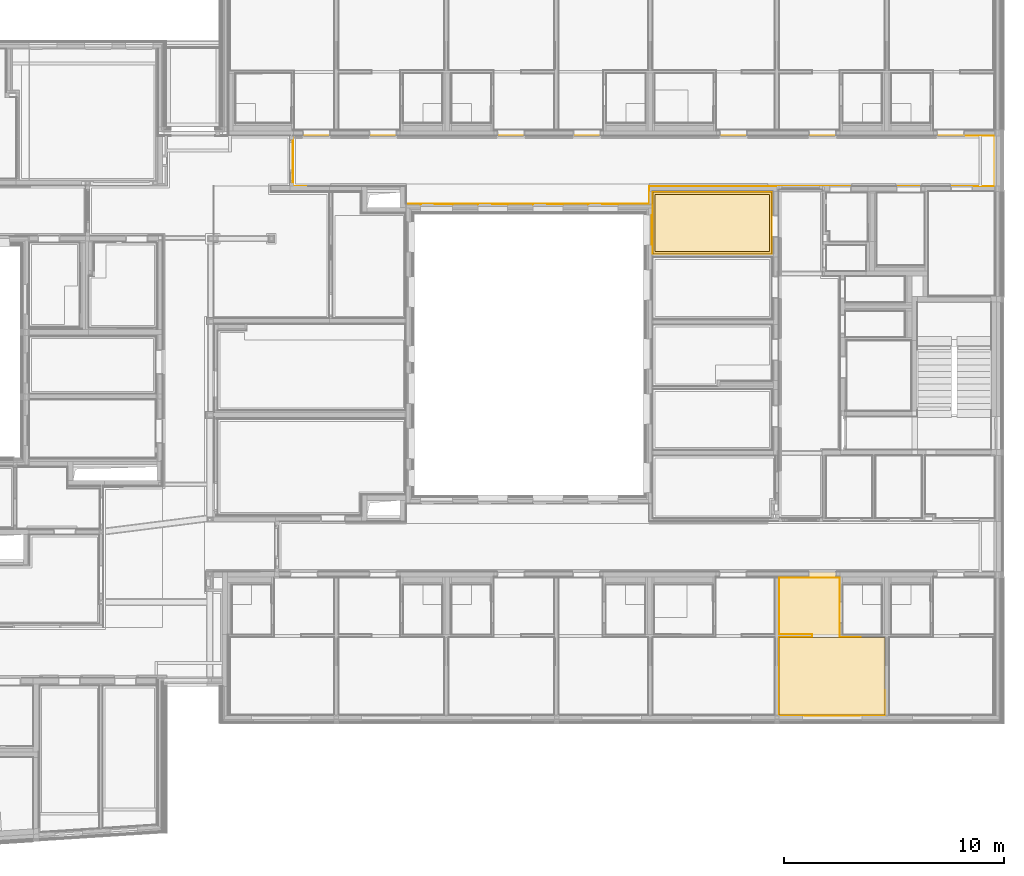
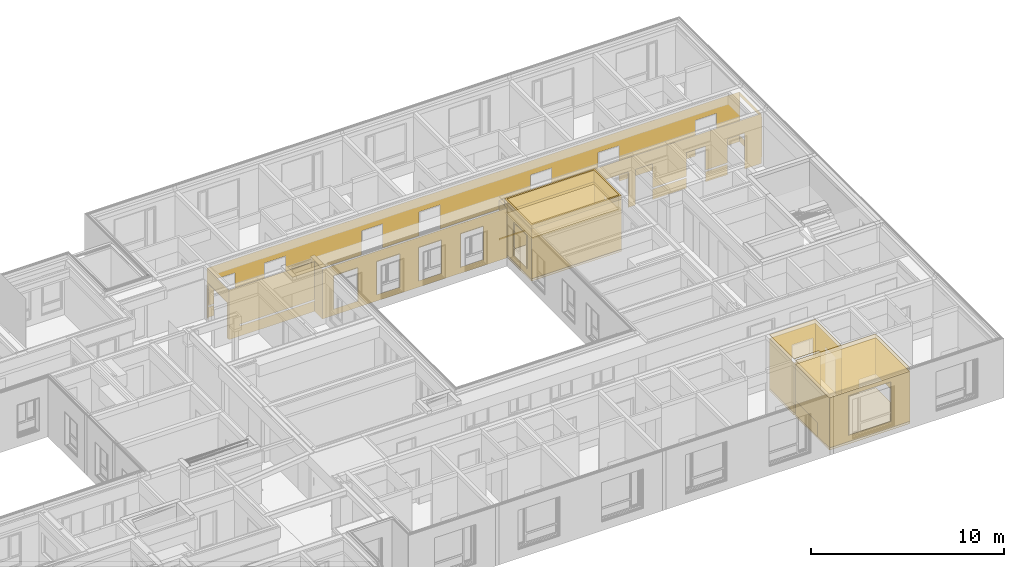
# One storey, part 193 of 222: 20 coverings.
"""IFC4 building model written with IfcOpenShell, lengths in metres."""

from ifc_helpers import new_model, entity, si_unit, converted_unit, derived_unit, frame, frame_2d, origin, origin_with_axes, place, context, subcontext, project, spatial, polyline, rectangle, outline, extrude, material, layer, layer_set, layer_usage, element, save


model = new_model("IFC4")

# Units and contexts
model_context = context("Model", 3, precision=1e-05, world=origin())
body_context = subcontext(model_context, "Body", "Model", "MODEL_VIEW")
ifc_project = project(units=[si_unit("LENGTHUNIT", "METRE"), si_unit("AREAUNIT", "SQUARE_METRE"), si_unit("VOLUMEUNIT", "CUBIC_METRE"), si_unit("MASSUNIT", "GRAM", prefix="KILO"), converted_unit("PLANEANGLEUNIT", "DEGREE", entity("IfcPlaneAngleMeasure", 0.0174532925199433), si_unit("PLANEANGLEUNIT", "RADIAN"), dimensions=[0, 0, 0, 0, 0, 0, 0]), derived_unit("THERMALTRANSMITTANCEUNIT", [(si_unit("POWERUNIT", "WATT"), 1), (si_unit("THERMODYNAMICTEMPERATUREUNIT", "KELVIN"), -1), (si_unit("LENGTHUNIT", "METRE"), -2)]), derived_unit("VOLUMETRICFLOWRATEUNIT", [(si_unit("LENGTHUNIT", "METRE"), 3), (converted_unit("TIMEUNIT", "hour", entity("IfcTimeMeasure", 3600.0), si_unit("TIMEUNIT", "SECOND"), dimensions=[0, 0, 1, 0, 0, 0, 0]), -1), (si_unit("LENGTHUNIT", "METRE"), -1)])], contexts=[model_context])

# Site, building, storey, space
site_placement = place(None, origin())
site = spatial("IfcSite", under=ifc_project, at=site_placement, Name="Psychiatrie Neubau Wunstorf", CompositionType="ELEMENT")
building_placement = place(site_placement, origin())
building = spatial("IfcBuilding", under=site, at=building_placement, Name="Neubau H2 Stationsgebäude", CompositionType="ELEMENT")
storey_placement = place(building_placement, frame((0.0, 0.0, 3.6)))
storey = spatial("IfcBuildingStorey", under=building, at=storey_placement, Name="H2 Ebene +1", CompositionType="ELEMENT", Elevation=3.6)
space_1_placement = place(storey_placement, frame((74.055, 22.036, 0.0)))
space_1 = spatial("IfcSpace", under=storey, at=space_1_placement, Name="WUN-H2-E01-073", CompositionType="ELEMENT")

# Coverings
ifc_material_1 = material(Name="97")
ifc_layer_1 = layer(ifc_material_1, 0.001)
ifc_layer_set_1 = layer_set([ifc_layer_1])
ifc_layer_usage_1 = layer_usage(ifc_layer_set_1, "AXIS3", "POSITIVE", 0.0)
covering_1_placement = place(space_1_placement, frame((16.156, 0.799999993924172, 0.8)))
element("IfcCovering", 1, at=covering_1_placement, inside=space_1, material=ifc_layer_usage_1, Name="Handlauf", PredefinedType="CLADDING", context=body_context, shape_type="SweptSolid", body=[
    extrude(rectangle(XDim=5.37899999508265, YDim=0.1, at=frame_2d((2.68949999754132, -0.05), x_axis=(1.0, 0.0))), frame((0.0, 0.0, 0.0), z_axis=(0.0, 1.0, 0.0), x_axis=(1.0, 0.0, 0.0)), (0.0, 0.0, 1.0), 0.001),
])
ifc_material_2 = material(Name="49")
ifc_layer_2 = layer(ifc_material_2, 0.001)
ifc_layer_set_2 = layer_set([ifc_layer_2])
ifc_layer_usage_2 = layer_usage(ifc_layer_set_2, "AXIS3", "POSITIVE", 0.0)
covering_2_placement = place(space_1_placement, frame((-0.035, -0.05, 0.15)))
element("IfcCovering", 2, at=covering_2_placement, inside=space_1, material=ifc_layer_usage_2, PredefinedType="CLADDING", context=body_context, shape_type="SweptSolid", body=[
    extrude(outline(polyline([(0.0, 3.15), (0.154999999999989, 3.15), (0.154999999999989, 0.89), (2.12649999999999, 0.89), (2.12649999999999, 3.15), (2.28149999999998, 3.15), (2.28149999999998, 0.0), (0.0, 0.0), (0.0, 3.15)])), frame((0.035, 3.13150000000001, 3.15), z_axis=(1.0, 0.0, 0.0), x_axis=(0.0, -1.0, 0.0)), (0.0, 0.0, 1.0), 0.001),
    extrude(outline(polyline([(0.0, 3.15), (5.12499963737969, 3.15), (5.12499963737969, 2.5), (0.66, 2.5), (0.66, 2.4), (5.12499963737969, 2.4), (5.12499963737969, 0.0), (0.0, 0.0), (0.0, 3.15)])), frame((0.035, 0.850000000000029, 3.15), z_axis=(-1.07143262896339e-15, 1.0, -4.5075620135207e-15), x_axis=(1.0, 1.07143262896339e-15, 0.0)), (0.0, 0.0, 1.0), 0.001),
    extrude(rectangle(XDim=0.800000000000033, YDim=3.15, at=frame_2d((0.400000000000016, -1.575), x_axis=(1.0, 0.0))), frame((5.15999963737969, 0.850000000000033, 0.0), z_axis=(1.0, 0.0, 0.0), x_axis=(0.0, -1.0, 0.0)), (0.0, 0.0, 1.0), 0.001),
    extrude(outline(polyline([(0.0, 3.15), (11.0310003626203, 3.15), (11.0310003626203, 0.0), (0.0, 0.0), (0.0, 3.15)]), holes=[polyline([(4.59970036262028, 2.75), (3.24970036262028, 2.75), (3.24970036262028, 0.635), (4.59970036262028, 0.635), (4.59970036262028, 2.75)]), polyline([(7.09970066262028, 2.75), (5.74970036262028, 2.75), (5.74970036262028, 0.635), (7.09970066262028, 0.635), (7.09970066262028, 2.75)]), polyline([(9.59970096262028, 2.75), (8.24970066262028, 2.75), (8.24970066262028, 0.635), (9.59970096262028, 0.635), (9.59970096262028, 2.75)]), polyline([(2.09970036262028, 2.75), (0.649700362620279, 2.75), (0.649700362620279, 0.635), (2.09970036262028, 0.635), (2.09970036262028, 2.75)])]), frame((5.15999963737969, 0.0499999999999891, 3.15), z_axis=(0.0, 1.0, 0.0), x_axis=(1.0, 0.0, 0.0)), (0.0, 0.0, 1.0), 0.001),
    extrude(rectangle(XDim=0.799999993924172, YDim=3.15, at=frame_2d((0.399999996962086, -1.575), x_axis=(1.0, 0.0))), frame((16.191, 0.05, 0.0), z_axis=(-1.0, 0.0, 0.0), x_axis=(0.0, 1.0, 0.0)), (0.0, 0.0, 1.0), 0.001),
    extrude(outline(polyline([(0.0, 3.15), (6.02649991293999, 3.15), (6.02649991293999, 0.89), (7.70899991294, 0.89), (7.70899991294, 3.15), (8.16400622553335, 3.15), (8.16400622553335, 0.89), (9.17400622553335, 0.89), (9.17400622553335, 2.4), (11.2039935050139, 2.4), (11.2039935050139, 0.89), (12.3389935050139, 0.89), (12.3389935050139, 2.4), (13.6615453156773, 2.4), (13.6615453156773, 0.89), (14.6715453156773, 0.89), (14.6715453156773, 3.15), (15.678, 3.15), (15.678, 0.0), (0.0, 0.0), (0.0, 2.4), (5.37899999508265, 2.4), (5.37899999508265, 2.5), (0.0, 2.5), (0.0, 3.15)])), frame((16.191, 0.849999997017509, 3.15), z_axis=(-1.23937442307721e-10, 1.0, -5.33067010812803e-10), x_axis=(1.0, 1.23937442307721e-10, 0.0)), (0.0, 0.0, 1.0), 0.001),
    extrude(rectangle(XDim=0.65, YDim=1.32255181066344, at=frame_2d((-0.66127590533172, -0.325), x_axis=(0.0, -1.0))), frame((29.8525453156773, 0.84999999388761, 0.0), z_axis=(5.52882347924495e-11, 1.0, -9.45989505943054e-09), x_axis=(1.0, -5.52882347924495e-11, 0.0)), (0.0, 0.0, 1.0), 0.001),
    extrude(rectangle(XDim=0.65, YDim=2.02998727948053, at=frame_2d((1.01499363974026, 0.325), x_axis=(0.0, 1.0))), frame((25.3650062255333, 0.85000000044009, 0.65), z_axis=(5.52886637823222e-11, 1.0, -9.93814655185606e-09), x_axis=(1.0, -5.52886637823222e-11, 0.0)), (0.0, 0.0, 1.0), 0.001),
    extrude(outline(polyline([(0.0, 3.15), (2.28150000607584, 3.15), (2.28150000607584, 2.75), (0.00149995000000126, 2.75), (0.00149995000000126, 0.25), (2.28150000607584, 0.25), (2.28150000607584, 0.0), (0.0, 0.0), (0.0, 3.15)])), frame((31.869, 0.849999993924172, 3.15), z_axis=(-1.0, 3.6250057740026e-15, 5.27507767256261e-30), x_axis=(3.6250057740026e-15, 1.0, 0.0)), (0.0, 0.0, 1.0), 0.001),
    extrude(outline(polyline([(0.0, 3.15), (1.379, 3.15), (1.379, 0.89), (2.639, 0.89), (2.639, 2.4), (7.189, 2.4), (7.189, 0.89), (8.449, 0.89), (8.449, 2.4), (11.229, 2.4), (11.229, 0.89), (12.489, 0.89), (12.489, 2.4), (17.889, 2.4), (17.889, 0.89), (19.149, 0.89), (19.149, 2.4), (21.329, 2.4), (21.329, 0.89), (22.589, 0.89), (22.589, 2.4), (27.139, 2.4), (27.139, 0.89), (28.399, 0.89), (28.399, 2.4), (30.164, 2.4), (30.164, 0.89), (31.424, 0.89), (31.424, 2.4), (31.834, 2.4), (31.834, 0.0), (0.0, 0.0), (0.0, 3.15)])), frame((31.869, 3.13150000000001, 3.15), z_axis=(-5.44997013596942e-17, -1.0, 3.5340620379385e-15), x_axis=(-1.0, 5.44997013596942e-17, 0.0)), (0.0, 0.0, 1.0), 0.001),
    extrude(rectangle(XDim=0.65, YDim=4.55, at=frame_2d((2.275, 0.325), x_axis=(0.0, 1.0))), frame((29.23, 3.13150000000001, 0.65), z_axis=(-3.99777890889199e-16, -1.0, 2.79844523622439e-15), x_axis=(-1.0, 3.99777890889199e-16, 0.0)), (0.0, 0.0, 1.0), 0.001),
    extrude(rectangle(XDim=0.65, YDim=2.78000000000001, at=frame_2d((1.39000000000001, 0.325), x_axis=(0.0, 1.0))), frame((23.42, 3.13150000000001, 0.65), z_axis=(0.0, -1.0, 0.0), x_axis=(-1.0, 0.0, 0.0)), (0.0, 0.0, 1.0), 0.001),
    extrude(rectangle(XDim=0.65, YDim=5.39999999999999, at=frame_2d((2.69999999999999, 0.325), x_axis=(0.0, 1.0))), frame((19.38, 3.13150000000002, 0.65), z_axis=(0.0, -1.0, 5.59689047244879e-15), x_axis=(-1.0, 0.0, 0.0)), (0.0, 0.0, 1.0), 0.001),
    extrude(rectangle(XDim=0.65, YDim=1.765, at=frame_2d((0.8825, 0.325), x_axis=(0.0, 1.0))), frame((3.46999999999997, 3.13150000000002, 0.65), z_axis=(0.0, -1.0, 5.59689047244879e-15), x_axis=(-1.0, 0.0, 0.0)), (0.0, 0.0, 1.0), 0.001),
    extrude(rectangle(XDim=0.65, YDim=2.18, at=frame_2d((1.09, 0.325), x_axis=(0.0, 1.0))), frame((12.72, 3.13150000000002, 0.65), z_axis=(0.0, -1.0, 5.59689047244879e-15), x_axis=(-1.0, 0.0, 0.0)), (0.0, 0.0, 1.0), 0.001),
    extrude(rectangle(XDim=0.65, YDim=4.55, at=frame_2d((2.275, 0.325), x_axis=(0.0, 1.0))), frame((9.27999999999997, 3.13150000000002, 0.65), z_axis=(0.0, -1.0, 5.59689047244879e-15), x_axis=(-1.0, 0.0, 0.0)), (0.0, 0.0, 1.0), 0.001),
    extrude(rectangle(XDim=0.65, YDim=0.409999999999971, at=frame_2d((0.204999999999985, 0.325), x_axis=(0.0, 1.0))), frame((0.444999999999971, 3.13150000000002, 0.65), z_axis=(0.0, -1.0, 5.59689047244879e-15), x_axis=(-1.0, 0.0, 0.0)), (0.0, 0.0, 1.0), 0.001),
    extrude(rectangle(XDim=0.035, YDim=2.26, at=frame_2d((0.0175, -1.13), x_axis=(1.0, 0.0))), frame((0.035, 2.97650000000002, 0.0), z_axis=(-5.19711258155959e-14, -1.0, 8.04862567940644e-16), x_axis=(-1.0, 5.19711258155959e-14, 0.0)), (0.0, 0.0, 1.0), 0.001),
    extrude(rectangle(XDim=1.9715, YDim=0.035, at=frame_2d((-0.0175, -0.98575), x_axis=(0.0, -1.0))), frame((0.035, 1.00500000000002, 2.26), z_axis=(0.0, 0.0, -1.0), x_axis=(1.0, 0.0, 0.0)), (0.0, 0.0, 1.0), 0.001),
    extrude(rectangle(XDim=2.26, YDim=0.035, at=frame_2d((0.0175, 1.13), x_axis=(0.0, 1.0))), frame((0.0, 1.00500000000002, 2.26), z_axis=(5.19711258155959e-14, 1.0, 8.04862567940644e-16), x_axis=(1.0, -5.19711258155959e-14, 0.0)), (0.0, 0.0, 1.0), 0.001),
    extrude(rectangle(XDim=1.35, YDim=0.05, at=frame_2d((0.675, -0.025), x_axis=(1.0, 0.0))), frame((8.40969999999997, 0.0, 2.515), z_axis=(0.0, 0.0, -1.0), x_axis=(1.0, 0.0, 0.0)), (0.0, 0.0, 1.0), 0.001),
    extrude(rectangle(XDim=2.115, YDim=0.05, at=frame_2d((-0.025, -1.0575), x_axis=(0.0, -1.0))), frame((8.40969999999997, 0.0, 0.4), z_axis=(1.0, 0.0, 0.0), x_axis=(0.0, -1.0, 0.0)), (0.0, 0.0, 1.0), 0.001),
    extrude(rectangle(XDim=2.115, YDim=0.05, at=frame_2d((-0.025, -1.0575), x_axis=(0.0, -1.0))), frame((9.75969999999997, 0.05, 0.4), z_axis=(-1.0, 0.0, 0.0), x_axis=(0.0, 1.0, 0.0)), (0.0, 0.0, 1.0), 0.001),
    extrude(rectangle(XDim=1.3500003, YDim=0.05, at=frame_2d((0.67500015, -0.025), x_axis=(1.0, 0.0))), frame((10.9097, 0.0, 2.515), z_axis=(0.0, 0.0, -1.0), x_axis=(1.0, 0.0, 0.0)), (0.0, 0.0, 1.0), 0.001),
    extrude(rectangle(XDim=2.115, YDim=0.05, at=frame_2d((-0.025, -1.0575), x_axis=(0.0, -1.0))), frame((10.9097, 0.0, 0.4), z_axis=(1.0, 0.0, 0.0), x_axis=(0.0, -1.0, 0.0)), (0.0, 0.0, 1.0), 0.001),
    extrude(rectangle(XDim=2.115, YDim=0.05, at=frame_2d((-0.025, -1.0575), x_axis=(0.0, -1.0))), frame((12.2597003, 0.05, 0.4), z_axis=(-1.0, 0.0, 0.0), x_axis=(0.0, 1.0, 0.0)), (0.0, 0.0, 1.0), 0.001),
    extrude(rectangle(XDim=1.3500003, YDim=0.05, at=frame_2d((0.67500015, -0.025), x_axis=(1.0, 0.0))), frame((13.4097003, 0.0, 2.515), z_axis=(0.0, 0.0, -1.0), x_axis=(1.0, 0.0, 0.0)), (0.0, 0.0, 1.0), 0.001),
    extrude(rectangle(XDim=2.115, YDim=0.05, at=frame_2d((-0.025, -1.0575), x_axis=(0.0, -1.0))), frame((13.4097003, 0.0, 0.4), z_axis=(1.0, 0.0, 0.0), x_axis=(0.0, -1.0, 0.0)), (0.0, 0.0, 1.0), 0.001),
    extrude(rectangle(XDim=2.115, YDim=0.05, at=frame_2d((-0.025, -1.0575), x_axis=(0.0, -1.0))), frame((14.7597006, 0.05, 0.4), z_axis=(-1.0, 0.0, 0.0), x_axis=(0.0, 1.0, 0.0)), (0.0, 0.0, 1.0), 0.001),
    extrude(rectangle(XDim=1.45, YDim=0.05, at=frame_2d((0.725, -0.025), x_axis=(1.0, 0.0))), frame((5.80969999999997, 0.0, 2.515), z_axis=(0.0, 0.0, -1.0), x_axis=(1.0, 0.0, 0.0)), (0.0, 0.0, 1.0), 0.001),
    extrude(rectangle(XDim=2.115, YDim=0.05, at=frame_2d((-0.025, -1.0575), x_axis=(0.0, -1.0))), frame((5.80969999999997, 0.0, 0.4), z_axis=(1.0, 0.0, 0.0), x_axis=(0.0, -1.0, 0.0)), (0.0, 0.0, 1.0), 0.001),
    extrude(rectangle(XDim=2.115, YDim=0.05, at=frame_2d((-0.025, -1.0575), x_axis=(0.0, -1.0))), frame((7.25969999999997, 0.05, 0.4), z_axis=(-1.0, 0.0, 0.0), x_axis=(0.0, 1.0, 0.0)), (0.0, 0.0, 1.0), 0.001),
    extrude(rectangle(XDim=0.0350000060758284, YDim=2.26, at=frame_2d((0.0175000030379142, -1.13), x_axis=(1.0, 0.0))), frame((22.21749991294, 0.85, 0.0), z_axis=(1.0, 0.0, 0.0), x_axis=(0.0, -1.0, 0.0)), (0.0, 0.0, 1.0), 0.001),
    extrude(rectangle(XDim=1.6825, YDim=0.0350000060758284, at=frame_2d((-0.84125, 0.0175000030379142), x_axis=(-1.0, 0.0))), frame((23.89999991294, 0.85, 2.26), z_axis=(0.0, 0.0, -1.0), x_axis=(1.0, 0.0, 0.0)), (0.0, 0.0, 1.0), 0.001),
    extrude(rectangle(XDim=2.26, YDim=0.0350000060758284, at=frame_2d((0.0175000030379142, 1.13), x_axis=(0.0, 1.0))), frame((23.89999991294, 0.814999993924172, 2.26), z_axis=(-1.0, 0.0, 0.0), x_axis=(0.0, 1.0, 0.0)), (0.0, 0.0, 1.0), 0.001),
    extrude(rectangle(XDim=0.03, YDim=2.5, at=frame_2d((0.015, -1.25), x_axis=(1.0, 0.0))), frame((31.869, 0.851499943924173, 0.4), z_axis=(0.0, 1.0, 0.0), x_axis=(1.0, 0.0, 0.0)), (0.0, 0.0, 1.0), 0.001),
    extrude(rectangle(XDim=2.28, YDim=0.03, at=frame_2d((0.015, 1.14), x_axis=(0.0, 1.0))), frame((31.869, 3.13149994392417, 2.9), z_axis=(0.0, 0.0, -1.0), x_axis=(1.0, 0.0, 0.0)), (0.0, 0.0, 1.0), 0.001),
    extrude(rectangle(XDim=2.5, YDim=0.03, at=frame_2d((-0.015, -1.25), x_axis=(0.0, -1.0))), frame((31.869, 3.13149994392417, 0.4), z_axis=(0.0, -1.0, 0.0), x_axis=(-1.0, 0.0, 0.0)), (0.0, 0.0, 1.0), 0.001),
])

# Space
space_2_placement = place(storey_placement, frame((96.1, -1.16399999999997, 0.0)))
space_2 = spatial("IfcSpace", under=storey, at=space_2_placement, Name="WUN-H2-E01-091", CompositionType="ELEMENT")

# Coverings
ifc_material_3 = material(Name="84")
ifc_layer_3 = layer(ifc_material_3, 0.001)
ifc_layer_set_3 = layer_set([ifc_layer_3])
ifc_layer_usage_3 = layer_usage(ifc_layer_set_3, "AXIS3", "POSITIVE", 0.0)
covering_3_placement = place(space_2_placement, frame((0.0, 1.22449999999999, 0.1)))
element("IfcCovering", 3, at=covering_3_placement, inside=space_2, material=ifc_layer_usage_3, Name="Acrovyn", PredefinedType="CLADDING", context=body_context, shape_type="SweptSolid", body=[
    extrude(rectangle(XDim=1.0, YDim=0.9, at=frame_2d((0.5, -0.45), x_axis=(1.0, 0.0))), frame((1.0, 2.3, 0.0), z_axis=(0.0, -1.0, 0.0), x_axis=(-1.0, 0.0, 0.0)), (0.0, 0.0, 1.0), 0.001),
    extrude(rectangle(XDim=2.3, YDim=0.9, at=frame_2d((1.15, -0.45), x_axis=(1.0, 0.0))), frame((0.0, 2.3, 0.0), z_axis=(1.0, 0.0, 0.0), x_axis=(0.0, -1.0, 0.0)), (0.0, 0.0, 1.0), 0.001),
])
ifc_material_4 = material()
ifc_layer_4 = layer(ifc_material_4, 0.036)
ifc_layer_set_4 = layer_set([ifc_layer_4])
ifc_layer_usage_4 = layer_usage(ifc_layer_set_4, "AXIS3", "POSITIVE", 0.0)
covering_4_placement = place(space_2_placement, frame((0.0, 3.5245, 3.55)))
element("IfcCovering", 4, at=covering_4_placement, inside=space_2, material=ifc_layer_usage_4, Name="Gipsfaserplatten 2-lagig (BSK)", PredefinedType="CEILING", context=body_context, shape_type="SweptSolid", body=[
    extrude(outline(polyline([(2.75, 0.0), (2.75, 2.70000000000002), (1.5, 2.70000000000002), (1.5, 2.55000000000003), (0.0, 2.55000000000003), (0.0, 0.0), (2.75, 0.0)])), frame((0.0, 2.70000000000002, 0.0), z_axis=(0.0, 0.0, -1.0), x_axis=(1.0, 0.0, 0.0)), (0.0, 0.0, 1.0), 0.036),
])
ifc_material_5 = material(Name="Ku1")
ifc_layer_5 = layer(ifc_material_5, 0.15)
ifc_layer_set_5 = layer_set([ifc_layer_5])
ifc_layer_usage_5 = layer_usage(ifc_layer_set_5, "AXIS3", "POSITIVE", 0.0)
covering_5_placement = place(space_2_placement, origin())
element("IfcCovering", 5, at=covering_5_placement, inside=space_2, material=ifc_layer_usage_5, Name="PVC Bahnenware Holzoptik", PredefinedType="FLOORING", context=body_context, shape_type="SweptSolid", body=[
    extrude(rectangle(XDim=0.272, YDim=1.26, at=frame_2d((-0.63, 0.136), x_axis=(0.0, 1.0))), frame((2.6, 6.22450000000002, 0.0), z_axis=(0.0, 0.0, 1.0), x_axis=(1.0, 0.0, 0.0)), (0.0, 0.0, 1.0), 0.15),
    extrude(outline(polyline([(2.75000000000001, 6.2245), (0.0, 6.2245), (0.0, 3.67449999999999), (1.50000000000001, 3.67449999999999), (1.50000000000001, 3.52449999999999), (0.0, 3.52449999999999), (0.0, 0.0), (4.80000000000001, 0.0), (4.80000000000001, 3.5245), (2.75000000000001, 3.5245), (2.75000000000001, 6.2245)])), origin_with_axes(), (0.0, 0.0, 1.0), 0.15),
])
ifc_material_6 = material()
ifc_layer_6 = layer(ifc_material_6, 0.036)
ifc_layer_set_6 = layer_set([ifc_layer_6])
ifc_layer_usage_6 = layer_usage(ifc_layer_set_6, "AXIS3", "POSITIVE", 0.0)
covering_6_placement = place(space_2_placement, frame((0.0, 0.0, 3.55)))
element("IfcCovering", 6, at=covering_6_placement, inside=space_2, material=ifc_layer_usage_6, Name="Gipsfaserplatten 2-lagig (BSK)", PredefinedType="CEILING", context=body_context, shape_type="SweptSolid", body=[
    extrude(rectangle(XDim=3.5245, YDim=4.80000000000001, at=frame_2d((-2.40000000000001, 1.76225), x_axis=(0.0, 1.0))), frame((4.8, 3.5245, 0.0), z_axis=(0.0, 0.0, -1.0), x_axis=(1.0, 0.0, 0.0)), (0.0, 0.0, 1.0), 0.036),
])
ifc_material_7 = material(Name="Installationshöhe")
ifc_layer_7 = layer(ifc_material_7, 0.114)
ifc_layer_set_7 = layer_set([ifc_layer_7])
ifc_layer_usage_7 = layer_usage(ifc_layer_set_7, "AXIS3", "POSITIVE", 0.0)
covering_7_placement = place(space_2_placement, frame((0.0, 0.0, 3.514)))
element("IfcCovering", 7, at=covering_7_placement, inside=space_2, material=ifc_layer_usage_7, Name="Gipsfaserplatten 2-lagig (BSK)", PredefinedType="CEILING", context=body_context, shape_type="SweptSolid", body=[
    extrude(rectangle(XDim=3.5245, YDim=4.80000000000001, at=frame_2d((-2.40000000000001, 1.76225), x_axis=(0.0, 1.0))), frame((4.8, 3.5245, 0.0), z_axis=(0.0, 0.0, -1.0), x_axis=(1.0, 0.0, 0.0)), (0.0, 0.0, 1.0), 0.114),
])
ifc_material_8 = material(Name="A1")
ifc_layer_8 = layer(ifc_material_8, 0.1)
ifc_layer_set_8 = layer_set([ifc_layer_8])
ifc_layer_usage_8 = layer_usage(ifc_layer_set_8, "AXIS3", "POSITIVE", 0.0)
covering_8_placement = place(space_2_placement, frame((0.0, 0.0, 3.4)))
element("IfcCovering", 8, at=covering_8_placement, inside=space_2, material=ifc_layer_usage_8, Name="Gipsfaserplatten 2-lagig (BSK)", PredefinedType="CEILING", context=body_context, shape_type="SweptSolid", body=[
    extrude(rectangle(XDim=3.5245, YDim=4.80000000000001, at=frame_2d((-2.40000000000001, 1.76225), x_axis=(0.0, 1.0))), frame((4.8, 3.5245, 0.0), z_axis=(0.0, 0.0, -1.0), x_axis=(1.0, 0.0, 0.0)), (0.0, 0.0, 1.0), 0.1),
])
ifc_material_9 = material(Name="D1")
ifc_layer_9 = layer(ifc_material_9, 0.001)
ifc_layer_set_9 = layer_set([ifc_layer_9])
ifc_layer_usage_9 = layer_usage(ifc_layer_set_9, "AXIS3", "POSITIVE", 0.0)
covering_9_placement = place(space_2_placement, frame((0.0, 0.0, 3.3)))
element("IfcCovering", 9, at=covering_9_placement, inside=space_2, material=ifc_layer_usage_9, Name="Gipsfaserplatten 2-lagig (BSK)", PredefinedType="CEILING", context=body_context, shape_type="SweptSolid", body=[
    extrude(rectangle(XDim=3.5245, YDim=4.80000000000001, at=frame_2d((-2.40000000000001, 1.76225), x_axis=(0.0, 1.0))), frame((4.8, 3.5245, 0.0), z_axis=(0.0, 0.0, -1.0), x_axis=(1.0, 0.0, 0.0)), (0.0, 0.0, 1.0), 0.001),
])
ifc_material_10 = material(Name="49")
ifc_layer_10 = layer(ifc_material_10, 0.001)
ifc_layer_set_10 = layer_set([ifc_layer_10])
ifc_layer_usage_10 = layer_usage(ifc_layer_set_10, "AXIS3", "POSITIVE", 0.0)
covering_10_placement = place(space_2_placement, frame((0.0, -0.025, 0.15)))
element("IfcCovering", 10, at=covering_10_placement, inside=space_2, material=ifc_layer_usage_10, PredefinedType="CLADDING", context=body_context, shape_type="SweptSolid", body=[
    extrude(outline(polyline([(0.999999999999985, 3.15), (2.05, 3.15), (2.05, 0.0), (0.0, 0.0), (0.0, 2.3), (0.999999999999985, 2.3), (0.999999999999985, 3.15)])), frame((4.8, 3.5495, 3.15), z_axis=(7.23784236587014e-16, -1.0, -8.51510866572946e-16), x_axis=(-1.0, -7.23784236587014e-16, 0.0)), (0.0, 0.0, 1.0), 0.001),
    extrude(outline(polyline([(0.0, 3.15), (0.62500000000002, 3.15), (0.62500000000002, 0.89), (1.63500000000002, 0.89), (1.63500000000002, 3.15), (2.7, 3.15), (2.7, 0.0), (0.0, 0.0), (0.0, 3.15)])), frame((2.75000000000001, 3.5495, 3.15), z_axis=(-1.0, 0.0, -1.55997637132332e-15), x_axis=(0.0, 1.0, 0.0)), (0.0, 0.0, 1.0), 0.001),
    extrude(outline(polyline([(0.0, 3.15), (0.15, 3.15), (0.15, 0.89), (1.41, 0.89), (1.41, 3.15), (2.75, 3.15), (2.75, 0.0), (0.0, 0.0), (0.0, 3.15)])), frame((2.75, 6.24950000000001, 3.15), z_axis=(0.0, -1.0, 1.98668935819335e-15), x_axis=(-1.0, 0.0, 0.0)), (0.0, 0.0, 1.0), 0.001),
    extrude(rectangle(XDim=2.55000000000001, YDim=3.15, at=frame_2d((1.27500000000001, -1.575), x_axis=(1.0, 0.0))), frame((0.0, 6.2495, 0.0), z_axis=(1.0, 0.0, 0.0), x_axis=(0.0, -1.0, 0.0)), (0.0, 0.0, 1.0), 0.001),
    extrude(rectangle(XDim=1.5, YDim=3.15, at=frame_2d((0.75, -1.575), x_axis=(1.0, 0.0))), frame((0.0, 3.69949999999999, 0.0), z_axis=(0.0, 1.0, 0.0), x_axis=(1.0, 0.0, 0.0)), (0.0, 0.0, 1.0), 0.001),
    extrude(rectangle(XDim=0.15, YDim=3.15, at=frame_2d((0.0749999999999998, -1.575), x_axis=(1.0, 0.0))), frame((1.5, 3.69949999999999, 0.0), z_axis=(1.0, 0.0, 0.0), x_axis=(0.0, -1.0, 0.0)), (0.0, 0.0, 1.0), 0.001),
    extrude(outline(polyline([(0.0, 3.15), (0.500000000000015, 3.15), (0.500000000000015, 2.3), (1.50000000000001, 2.3), (1.50000000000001, 0.0), (0.0, 0.0), (0.0, 3.15)])), frame((1.5, 3.54949999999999, 3.15), z_axis=(0.0, -1.0, 0.0), x_axis=(-1.0, 0.0, 0.0)), (0.0, 0.0, 1.0), 0.001),
    extrude(outline(polyline([(2.3, 3.15), (3.52449999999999, 3.15), (3.52449999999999, 0.0), (0.0, 0.0), (0.0, 2.3), (2.3, 2.3), (2.3, 3.15)])), frame((0.0, 3.54949999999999, 3.15), z_axis=(1.0, -1.770512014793e-15, 1.770512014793e-15), x_axis=(-1.770512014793e-15, -1.0, 0.0)), (0.0, 0.0, 1.0), 0.001),
    extrude(outline(polyline([(0.0, 3.15), (4.80000000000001, 3.15), (4.80000000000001, 0.0), (0.0, 0.0), (0.0, 3.15)]), holes=[polyline([(3.65000004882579, 2.75), (1.15000004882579, 2.75), (1.15000004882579, 0.25), (3.65000004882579, 0.25), (3.65000004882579, 2.75)])]), frame((0.0, 0.025, 3.15), z_axis=(0.0, 1.0, 0.0), x_axis=(1.0, 0.0, 0.0)), (0.0, 0.0, 1.0), 0.001),
    extrude(outline(polyline([(0.0, 3.15), (1.22450000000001, 3.15), (1.22450000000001, 2.3), (3.5245, 2.3), (3.5245, 0.0), (0.0, 0.0), (0.0, 3.15)])), frame((4.8, 0.025, 3.15), z_axis=(-1.0, -1.39844789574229e-15, -1.21857413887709e-15), x_axis=(-1.39844789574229e-15, 1.0, 0.0)), (0.0, 0.0, 1.0), 0.001),
    extrude(rectangle(XDim=0.0249999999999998, YDim=2.5, at=frame_2d((0.0124999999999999, -1.25), x_axis=(1.0, 0.0))), frame((1.15000004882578, 0.0249999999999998, 0.4), z_axis=(1.0, 0.0, 0.0), x_axis=(0.0, -1.0, 0.0)), (0.0, 0.0, 1.0), 0.001),
    extrude(rectangle(XDim=2.5, YDim=0.0249999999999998, at=frame_2d((-1.25, 0.0124999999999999), x_axis=(-1.0, 0.0))), frame((3.65000004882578, 0.0249999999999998, 2.9), z_axis=(0.0, 0.0, -1.0), x_axis=(1.0, 0.0, 0.0)), (0.0, 0.0, 1.0), 0.001),
    extrude(rectangle(XDim=2.5, YDim=0.0249999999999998, at=frame_2d((-0.0124999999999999, -1.25), x_axis=(0.0, -1.0))), frame((3.65000004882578, 0.0249999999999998, 0.4), z_axis=(-1.0, 0.0, 0.0), x_axis=(0.0, 1.0, 0.0)), (0.0, 0.0, 1.0), 0.001),
])

# Space
space_3_placement = place(storey_placement, frame((90.3575, 19.768, 0.0)))
space_3 = spatial("IfcSpace", under=storey, at=space_3_placement, Name="WUN-H2-E01-086", CompositionType="ELEMENT")

# Coverings
ifc_material_11 = material()
ifc_layer_11 = layer(ifc_material_11, 0.036)
ifc_layer_set_11 = layer_set([ifc_layer_11])
ifc_layer_usage_11 = layer_usage(ifc_layer_set_11, "AXIS3", "POSITIVE", 0.0)
covering_11_placement = place(space_3_placement, frame((0.1035, 0.100000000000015, 3.55)))
element("IfcCovering", 11, at=covering_11_placement, inside=space_3, material=ifc_layer_usage_11, Name="Gipsfaserplatten 2-lagig (BSK)", PredefinedType="CEILING", context=body_context, shape_type="SweptSolid", body=[
    extrude(rectangle(XDim=2.59599999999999, YDim=5.19999990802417, at=frame_2d((2.59999995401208, -1.29799999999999), x_axis=(0.0, -1.0))), frame((0.0, 0.0, 0.0), z_axis=(0.0, 0.0, -1.0), x_axis=(1.0, 0.0, 0.0)), (0.0, 0.0, 1.0), 0.036),
])
ifc_material_12 = material(Name="Installationshöhe")
ifc_layer_12 = layer(ifc_material_12, 0.714)
ifc_layer_set_12 = layer_set([ifc_layer_12])
ifc_layer_usage_12 = layer_usage(ifc_layer_set_12, "AXIS3", "POSITIVE", 0.0)
covering_12_placement = place(space_3_placement, frame((0.1035, 0.100000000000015, 3.514)))
element("IfcCovering", 12, at=covering_12_placement, inside=space_3, material=ifc_layer_usage_12, Name="Gipsfaserplatten 2-lagig (BSK)", PredefinedType="CEILING", context=body_context, shape_type="SweptSolid", body=[
    extrude(rectangle(XDim=2.59599999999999, YDim=5.19999990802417, at=frame_2d((2.59999995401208, -1.29799999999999), x_axis=(0.0, -1.0))), frame((0.0, 0.0, 0.0), z_axis=(0.0, 0.0, -1.0), x_axis=(1.0, 0.0, 0.0)), (0.0, 0.0, 1.0), 0.714),
])
ifc_material_13 = material(Name="Aa")
ifc_layer_13 = layer(ifc_material_13, 0.15)
ifc_layer_set_13 = layer_set([ifc_layer_13])
ifc_layer_usage_13 = layer_usage(ifc_layer_set_13, "AXIS3", "POSITIVE", 0.0)
covering_13_placement = place(space_3_placement, frame((0.1035, 0.100000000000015, 2.8)))
element("IfcCovering", 13, at=covering_13_placement, inside=space_3, material=ifc_layer_usage_13, Name="Gipsfaserplatten 2-lagig (BSK)", PredefinedType="CEILING", context=body_context, shape_type="SweptSolid", body=[
    extrude(rectangle(XDim=2.59599999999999, YDim=5.19999990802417, at=frame_2d((2.59999995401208, -1.29799999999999), x_axis=(0.0, -1.0))), frame((0.0, 0.0, 0.0), z_axis=(0.0, 0.0, -1.0), x_axis=(1.0, 0.0, 0.0)), (0.0, 0.0, 1.0), 0.15),
])
ifc_material_14 = material(Name="D1")
ifc_layer_14 = layer(ifc_material_14, 0.001)
ifc_layer_set_14 = layer_set([ifc_layer_14])
ifc_layer_usage_14 = layer_usage(ifc_layer_set_14, "AXIS3", "POSITIVE", 0.0)
covering_14_placement = place(space_3_placement, frame((0.1035, 0.100000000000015, 2.65)))
element("IfcCovering", 14, at=covering_14_placement, inside=space_3, material=ifc_layer_usage_14, Name="Gipsfaserplatten 2-lagig (BSK)", PredefinedType="CEILING", context=body_context, shape_type="SweptSolid", body=[
    extrude(rectangle(XDim=2.59599999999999, YDim=5.19999990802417, at=frame_2d((2.59999995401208, -1.29799999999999), x_axis=(0.0, -1.0))), frame((0.0, 0.0, 0.0), z_axis=(0.0, 0.0, -1.0), x_axis=(1.0, 0.0, 0.0)), (0.0, 0.0, 1.0), 0.001),
])
ifc_material_15 = material()
ifc_layer_15 = layer(ifc_material_15, 0.036)
ifc_layer_set_15 = layer_set([ifc_layer_15])
ifc_layer_usage_15 = layer_usage(ifc_layer_set_15, "AXIS3", "POSITIVE", 0.0)
covering_15_placement = place(space_3_placement, frame((0.0035, 0.0, 3.55)))
element("IfcCovering", 15, at=covering_15_placement, inside=space_3, material=ifc_layer_usage_15, Name="Gipsfaserplatten 2-lagig (BSK)", PredefinedType="CEILING", context=body_context, shape_type="SweptSolid", body=[
    extrude(outline(polyline([(0.0, 0.0), (5.39999990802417, 0.0), (5.39999990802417, 2.796), (0.0, 2.796), (0.0, 0.0)]), holes=[polyline([(5.29999990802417, 2.69599999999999), (5.29999990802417, 0.1), (0.1, 0.1), (0.1, 2.69599999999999), (5.29999990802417, 2.69599999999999)])]), frame((0.0, 2.796, 0.0), z_axis=(0.0, 0.0, -1.0), x_axis=(1.0, 0.0, 0.0)), (0.0, 0.0, 1.0), 0.036),
])
ifc_material_16 = material(Name="Installationshöhe")
ifc_layer_16 = layer(ifc_material_16, 0.714)
ifc_layer_set_16 = layer_set([ifc_layer_16])
ifc_layer_usage_16 = layer_usage(ifc_layer_set_16, "AXIS3", "POSITIVE", 0.0)
covering_16_placement = place(space_3_placement, frame((0.0035, 0.0, 3.514)))
element("IfcCovering", 16, at=covering_16_placement, inside=space_3, material=ifc_layer_usage_16, Name="Gipsfaserplatten 2-lagig (BSK)", PredefinedType="CEILING", context=body_context, shape_type="SweptSolid", body=[
    extrude(outline(polyline([(0.0, 0.0), (5.39999990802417, 0.0), (5.39999990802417, 2.796), (0.0, 2.796), (0.0, 0.0)]), holes=[polyline([(5.29999990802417, 2.69599999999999), (5.29999990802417, 0.1), (0.1, 0.1), (0.1, 2.69599999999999), (5.29999990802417, 2.69599999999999)])]), frame((0.0, 2.796, 0.0), z_axis=(0.0, 0.0, -1.0), x_axis=(1.0, 0.0, 0.0)), (0.0, 0.0, 1.0), 0.714),
])
ifc_material_17 = material(Name="A1")
ifc_layer_17 = layer(ifc_material_17, 0.15)
ifc_layer_set_17 = layer_set([ifc_layer_17])
ifc_layer_usage_17 = layer_usage(ifc_layer_set_17, "AXIS3", "POSITIVE", 0.0)
covering_17_placement = place(space_3_placement, frame((0.0035, 0.0, 2.8)))
element("IfcCovering", 17, at=covering_17_placement, inside=space_3, material=ifc_layer_usage_17, Name="Gipsfaserplatten 2-lagig (BSK)", PredefinedType="CEILING", context=body_context, shape_type="SweptSolid", body=[
    extrude(outline(polyline([(0.0, 0.0), (5.39999990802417, 0.0), (5.39999990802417, 2.796), (0.0, 2.796), (0.0, 0.0)]), holes=[polyline([(5.29999990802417, 2.69599999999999), (5.29999990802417, 0.1), (0.1, 0.1), (0.1, 2.69599999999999), (5.29999990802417, 2.69599999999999)])]), frame((0.0, 2.796, 0.0), z_axis=(0.0, 0.0, -1.0), x_axis=(1.0, 0.0, 0.0)), (0.0, 0.0, 1.0), 0.15),
])
ifc_material_18 = material(Name="D1")
ifc_layer_18 = layer(ifc_material_18, 0.001)
ifc_layer_set_18 = layer_set([ifc_layer_18])
ifc_layer_usage_18 = layer_usage(ifc_layer_set_18, "AXIS3", "POSITIVE", 0.0)
covering_18_placement = place(space_3_placement, frame((0.0035, 0.0, 2.65)))
element("IfcCovering", 18, at=covering_18_placement, inside=space_3, material=ifc_layer_usage_18, Name="Gipsfaserplatten 2-lagig (BSK)", PredefinedType="CEILING", context=body_context, shape_type="SweptSolid", body=[
    extrude(outline(polyline([(0.0, 0.0), (5.39999990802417, 0.0), (5.39999990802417, 2.796), (0.0, 2.796), (0.0, 0.0)]), holes=[polyline([(5.29999990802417, 2.69599999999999), (5.29999990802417, 0.1), (0.1, 0.1), (0.1, 2.69599999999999), (5.29999990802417, 2.69599999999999)])]), frame((0.0, 2.796, 0.0), z_axis=(0.0, 0.0, -1.0), x_axis=(1.0, 0.0, 0.0)), (0.0, 0.0, 1.0), 0.001),
])
ifc_material_19 = material(Name="Ku1")
ifc_layer_19 = layer(ifc_material_19, 0.15)
ifc_layer_set_19 = layer_set([ifc_layer_19])
ifc_layer_usage_19 = layer_usage(ifc_layer_set_19, "AXIS3", "POSITIVE", 0.0)
covering_19_placement = place(space_3_placement, origin())
element("IfcCovering", 19, at=covering_19_placement, inside=space_3, material=ifc_layer_usage_19, Name="PVC Bahnenware Holzoptik", PredefinedType="FLOORING", context=body_context, shape_type="SweptSolid", body=[
    extrude(outline(polyline([(0.0, 2.796), (0.0, 2.268), (0.0035, 2.268), (0.0035, 0.0), (5.40349990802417, 0.0), (5.40349990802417, 2.796), (0.0, 2.796)])), origin_with_axes(), (0.0, 0.0, 1.0), 0.15),
])
ifc_material_20 = material(Name="49")
ifc_layer_20 = layer(ifc_material_20, 0.001)
ifc_layer_set_20 = layer_set([ifc_layer_20])
ifc_layer_usage_20 = layer_usage(ifc_layer_set_20, "AXIS3", "POSITIVE", 0.0)
covering_20_placement = place(space_3_placement, frame((-0.0465, 0.0, 0.15)))
element("IfcCovering", 20, at=covering_20_placement, inside=space_3, material=ifc_layer_usage_20, PredefinedType="CLADDING", context=body_context, shape_type="SweptSolid", body=[
    extrude(outline(polyline([(0.0, 3.15), (0.75, 3.15), (0.75, 0.89), (1.76, 0.89), (1.76, 3.15), (2.796, 3.15), (2.796, 0.0), (0.0, 0.0), (0.0, 3.15)])), frame((5.44999990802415, 0.0, 3.15), z_axis=(-1.0, 0.0, 1.51146361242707e-15), x_axis=(0.0, 1.0, 0.0)), (0.0, 0.0, 1.0), 0.001),
    extrude(rectangle(XDim=5.40349990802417, YDim=3.15, at=frame_2d((2.70174995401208, -1.575), x_axis=(1.0, 0.0))), frame((5.44999990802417, 2.796, 0.0), z_axis=(0.0, -1.0, 0.0), x_axis=(-1.0, 0.0, 0.0)), (0.0, 0.0, 1.0), 0.001),
    extrude(rectangle(XDim=0.528, YDim=3.15, at=frame_2d((0.264, -1.575), x_axis=(1.0, 0.0))), frame((0.0465, 2.796, 0.0), z_axis=(1.0, 0.0, 0.0), x_axis=(0.0, -1.0, 0.0)), (0.0, 0.0, 1.0), 0.001),
    extrude(rectangle(XDim=0.0035, YDim=3.15, at=frame_2d((0.00175, -1.575), x_axis=(1.0, 0.0))), frame((0.0465, 2.268, 0.0), z_axis=(0.0, 1.0, 0.0), x_axis=(1.0, 0.0, 0.0)), (0.0, 0.0, 1.0), 0.001),
    extrude(outline(polyline([(0.0, 3.15), (2.268, 3.15), (2.268, 0.0), (0.0, 0.0), (0.0, 3.15)]), holes=[polyline([(1.86142814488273, 2.75), (0.511428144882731, 2.75), (0.511428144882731, 0.635), (1.86142814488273, 0.635), (1.86142814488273, 2.75)])]), frame((0.0500000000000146, 2.268, 3.15), z_axis=(1.0, 0.0, 0.0), x_axis=(0.0, -1.0, 0.0)), (0.0, 0.0, 1.0), 0.001),
    extrude(rectangle(XDim=5.39999990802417, YDim=3.15, at=frame_2d((2.69999995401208, -1.575), x_axis=(1.0, 0.0))), frame((0.05, 0.0, 0.0), z_axis=(0.0, 1.0, 0.0), x_axis=(1.0, 0.0, 0.0)), (0.0, 0.0, 1.0), 0.001),
    extrude(rectangle(XDim=0.05, YDim=1.35, at=frame_2d((-0.025, 0.675), x_axis=(-1.0, 0.0))), frame((0.0500000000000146, 1.75657185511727, 2.515), z_axis=(0.0, 0.0, -1.0), x_axis=(1.0, 0.0, 0.0)), (0.0, 0.0, 1.0), 0.001),
    extrude(rectangle(XDim=0.0500000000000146, YDim=2.115, at=frame_2d((0.025, -1.0575), x_axis=(1.0, 0.0))), frame((0.0500000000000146, 1.75657185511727, 0.4), z_axis=(0.0, -1.0, 0.0), x_axis=(-1.0, 0.0, 0.0)), (0.0, 0.0, 1.0), 0.001),
    extrude(rectangle(XDim=2.115, YDim=0.05, at=frame_2d((-0.025, -1.0575), x_axis=(0.0, -1.0))), frame((0.0500000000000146, 0.406571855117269, 0.4), z_axis=(0.0, 1.0, 0.0), x_axis=(1.0, 0.0, 0.0)), (0.0, 0.0, 1.0), 0.001),
])

save(model, "model.ifc")
